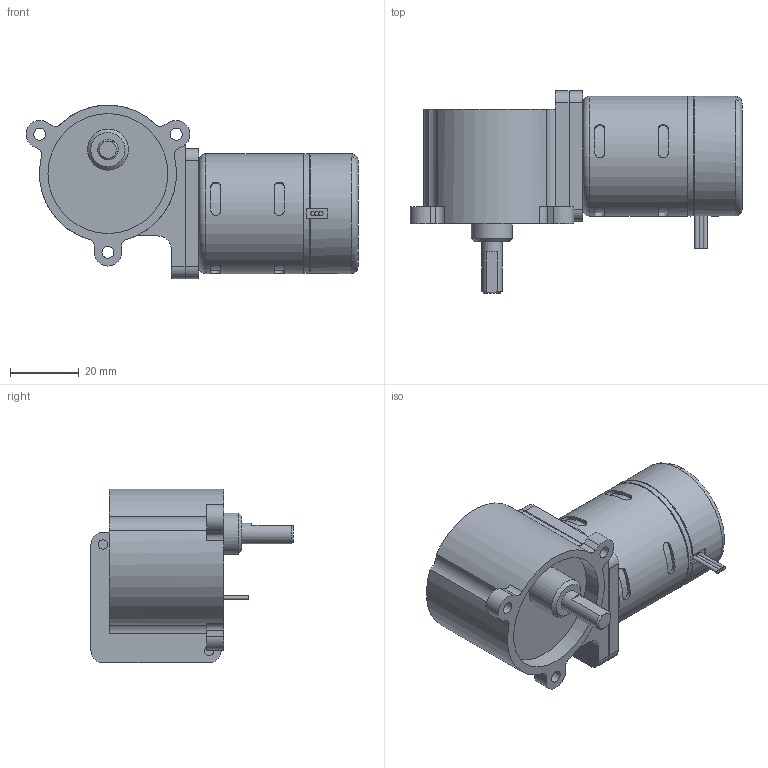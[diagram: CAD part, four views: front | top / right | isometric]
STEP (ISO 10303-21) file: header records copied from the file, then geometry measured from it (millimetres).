
FILE_DESCRIPTION((''),'2;1');
FILE_NAME('C:\Documents and Settings\SSEGAWA\デスクトップ\TP-3546B-KW.STP','2013-07-30T22:57:04',('SSEGAWA'),(''),'Autodesk Inventor 2010','Autodesk Inventor 2010','');
FILE_SCHEMA(('CONFIG_CONTROL_DESIGN'));
Length unit declared in the file: millimetre
Products named in the file (1): tp_3546bd_kw_Shrinkwrap_1
Bounding box: 96.92 x 59 x 50.63 mm (x, y, z)
Volume: 95771.5 mm3; surface area: 17134.6 mm2
Topology: 1 solids, 6 shells, 158 faces, 381 edges, 250 vertices
Faces by surface type: plane 68, cylinder 66, bspline 19, cone 3, torus 2
Full cylindrical faces by diameter (mm): 1.2 x2, 2.5 x1, 6 x1, 10 x1, 12 x1, 34.6 x1, 35 x4
Entity records: 5248 total; most frequent: CARTESIAN_POINT 1561, DIRECTION 736, ORIENTED_EDGE 674, EDGE_CURVE 337, AXIS2_PLACEMENT_3D 293, VERTEX_POINT 234, EDGE_LOOP 211, STYLED_ITEM 159
